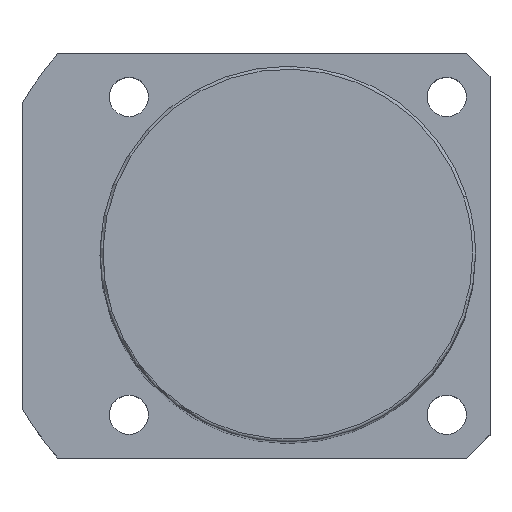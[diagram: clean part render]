
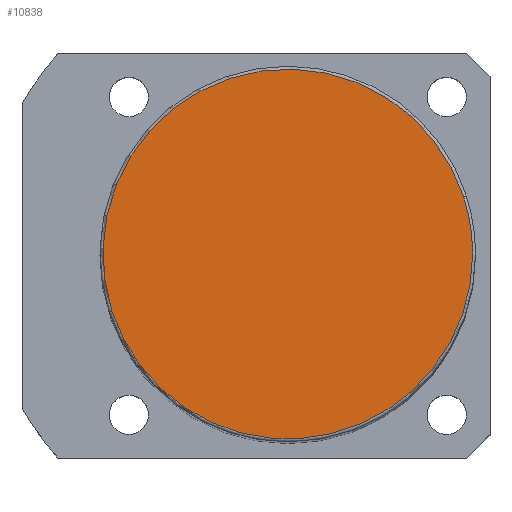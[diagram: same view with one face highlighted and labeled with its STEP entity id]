
A CAD part, top view. The second image highlights one B-rep face of the part: STEP entity #10838.
In plain terms, the highlighted planar face has unit normal (0, 0, 1).
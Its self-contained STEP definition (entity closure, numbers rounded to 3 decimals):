
#10804=CARTESIAN_POINT('',(32.0,0.0,196.0));
#10805=VERTEX_POINT('',#10804);
#10806=CARTESIAN_POINT('',(30.434,9.889,196.0));
#10807=VERTEX_POINT('',#10806);
#10808=CARTESIAN_POINT('',(0.0,0.0,196.0));
#10809=DIRECTION('',(0.0,0.0,1.0));
#10810=DIRECTION('',(1.0,0.0,0.0));
#10811=AXIS2_PLACEMENT_3D('',#10808,#10809,#10810);
#10812=CIRCLE('',#10811,32.0);
#10813=EDGE_CURVE('no 4922',#10805,#10807,#10812,.T.);
#10814=ORIENTED_EDGE('',*,*,#10813,.T.);
#10815=CARTESIAN_POINT('',(-30.434,-9.889,196.0));
#10816=VERTEX_POINT('',#10815);
#10817=CARTESIAN_POINT('',(0.0,0.0,196.0));
#10818=DIRECTION('',(0.0,0.0,1.0));
#10819=DIRECTION('',(1.0,0.0,0.0));
#10820=AXIS2_PLACEMENT_3D('',#10817,#10818,#10819);
#10821=CIRCLE('',#10820,32.0);
#10822=EDGE_CURVE('no 4928',#10807,#10816,#10821,.T.);
#10823=ORIENTED_EDGE('',*,*,#10822,.T.);
#10824=CARTESIAN_POINT('',(0.0,0.0,196.0));
#10825=DIRECTION('',(0.0,0.0,1.0));
#10826=DIRECTION('',(1.0,0.0,0.0));
#10827=AXIS2_PLACEMENT_3D('',#10824,#10825,#10826);
#10828=CIRCLE('',#10827,32.0);
#10829=EDGE_CURVE('no 4932',#10816,#10805,#10828,.T.);
#10830=ORIENTED_EDGE('',*,*,#10829,.T.);
#10831=EDGE_LOOP('',(#10814,#10823,#10830));
#10832=FACE_OUTER_BOUND('',#10831,.T.);
#10833=CARTESIAN_POINT('',(0.0,0.0,196.0));
#10834=DIRECTION('',(0.0,0.0,1.0));
#10835=DIRECTION('',(1.0,0.0,0.0));
#10836=AXIS2_PLACEMENT_3D('',#10833,#10834,#10835);
#10837=PLANE('',#10836);
#10838=ADVANCED_FACE('no 4913',(#10832),#10837,.T.);
